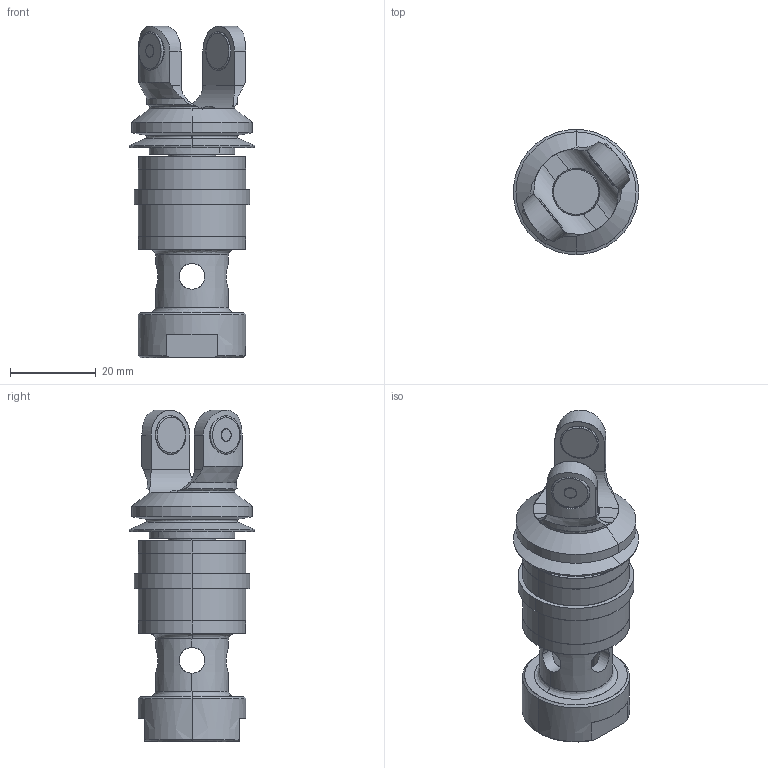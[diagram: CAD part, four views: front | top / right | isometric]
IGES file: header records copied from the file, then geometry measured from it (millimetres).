
Start section: SolidWorks IGES file using analytic representation for surfaces
Global section: file name: C:\Users\SELUHAA\Desktop\Work items\545792\IGES\IRB360_X-800-WD-4D_rev03_IGES_J\IRB360_X-800-WD-4D_rev03_FACEPLATE_CAD.IGS; native system: SolidWorks 2022; preprocessor: SolidWorks 2022; author: SELUHAA; date: 231128.134025; units: millimetre
Bounding box: 29.23 x 29.23 x 77.3 mm (x, y, z)
Surface area: 12667.5 mm2 (no closed solid volume)
Topology: 0 solids, 0 shells, 171 faces, 3131 edges, 3117 vertices
Faces by surface type: revolution 113, bspline 58
